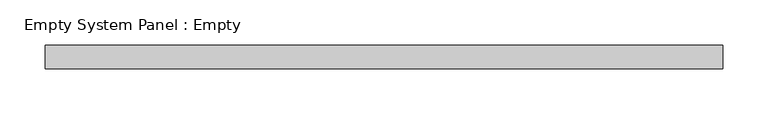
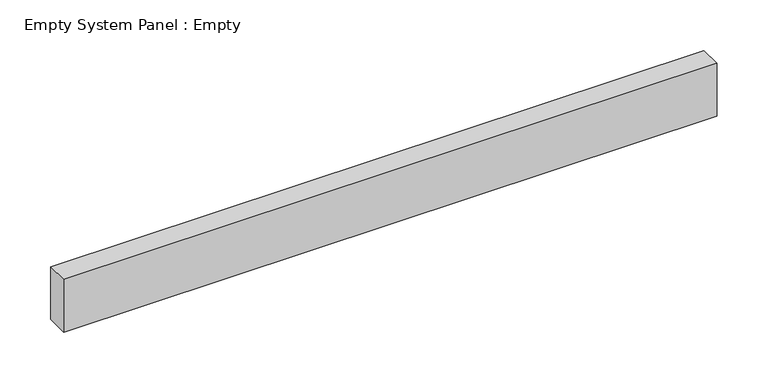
"""IFC4 building model written with IfcOpenShell, lengths in millimetres: plate geometry, Empty System Panel : Empty."""

from ifc_helpers import new_model, si_unit, origin, origin_with_axes, place, context, project, spatial, polyline, outline, extrude, source, transform, mapped, element, save


def empty_system_panel_empty_6c688f7a(model_context):
    return source(origin(), model_context, "Body", "SweptSolid", [
        extrude(outline(polyline([(372.6265547, 19.05), (-372.6265547, 19.05), (-372.6265547, 44.45), (372.6265547, 44.45), (372.6265547, 19.05)])), origin_with_axes(), (0.0, 0.0, 1.0), 63.5),
    ])


if __name__ == "__main__":
    model = new_model("IFC4")
    model_context = context("Model", 3, world=origin())
    ifc_project = project(units=[si_unit("LENGTHUNIT", "METRE", prefix="MILLI")], contexts=[model_context])
    site = spatial("IfcSite", under=ifc_project)
    building = spatial("IfcBuilding", under=site)
    placement = place(None, origin())
    empty_system_panel_empty_shape = empty_system_panel_empty_6c688f7a(model_context)
    element("IfcPlate", 1, ObjectType="Empty System Panel : Empty", at=placement, inside=building, context=model_context, shape_type="MappedRepresentation", body=[
        mapped(empty_system_panel_empty_shape, transform((0.0, 0.0, 0.0), x_axis=(1.0, 0.0, 0.0), y_axis=(0.0, 1.0, 0.0), z_axis=(0.0, 0.0, 1.0))),
    ])
    save(model, "model.ifc")
